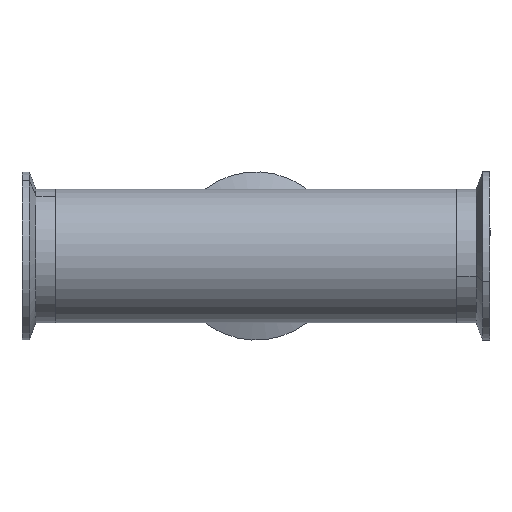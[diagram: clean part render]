
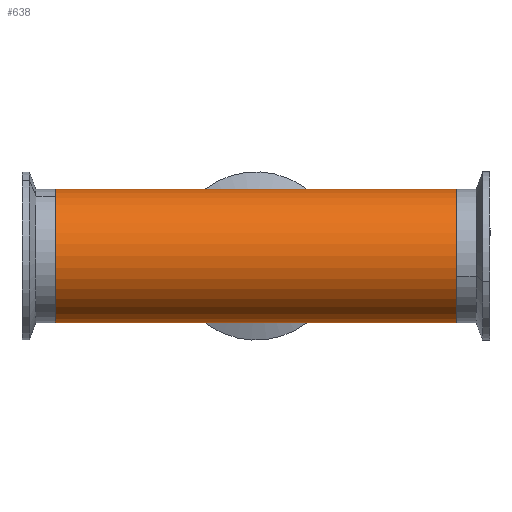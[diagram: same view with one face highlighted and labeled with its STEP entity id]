
A CAD part, front view. The second image highlights one B-rep face of the part: STEP entity #638.
In plain terms, the highlighted cylindrical face has radius 25.4 mm (diameter 50.8 mm), a partial arc.
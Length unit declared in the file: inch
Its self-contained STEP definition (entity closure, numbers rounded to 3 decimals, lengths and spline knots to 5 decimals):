
#13 = CARTESIAN_POINT ( 'NONE',  ( 3., 0., -1. ) ) ;
#64 = VECTOR ( 'NONE', #740, 39.37008 ) ;
#69 = AXIS2_PLACEMENT_3D ( 'NONE', #977, #240, #337 ) ;
#90 = LINE ( 'NONE', #13, #64 ) ;
#103 = VERTEX_POINT ( 'NONE', #167 ) ;
#111 = VERTEX_POINT ( 'NONE', #345 ) ;
#159 = VERTEX_POINT ( 'NONE', #244 ) ;
#161 = AXIS2_PLACEMENT_3D ( 'NONE', #1116, #515, #1208 ) ;
#166 = AXIS2_PLACEMENT_3D ( 'NONE', #183, #931, #295 ) ;
#167 = CARTESIAN_POINT ( 'NONE',  ( 0., 0., -1. ) ) ;
#174 = FACE_OUTER_BOUND ( 'NONE', #508, .T. ) ;
#183 = CARTESIAN_POINT ( 'NONE',  ( -3., 0., 0. ) ) ;
#229 = CARTESIAN_POINT ( 'NONE',  ( 3., 0., 1. ) ) ;
#230 = LINE ( 'NONE', #342, #494 ) ;
#240 = DIRECTION ( 'NONE',  ( -1., 0., 0. ) ) ;
#244 = CARTESIAN_POINT ( 'NONE',  ( -3., 0., 1. ) ) ;
#247 = VECTOR ( 'NONE', #1155, 39.37008 ) ;
#295 = DIRECTION ( 'NONE',  ( 0., 0., -1. ) ) ;
#325 = ORIENTED_EDGE ( 'NONE', *, *, #530, .F. ) ;
#329 = ORIENTED_EDGE ( 'NONE', *, *, #734, .F. ) ;
#337 = DIRECTION ( 'NONE',  ( 0., 0., 1. ) ) ;
#342 = CARTESIAN_POINT ( 'NONE',  ( 3., 0., 1. ) ) ;
#345 = CARTESIAN_POINT ( 'NONE',  ( 3., 0., -1. ) ) ;
#371 = VECTOR ( 'NONE', #1216, 39.37008 ) ;
#430 = CYLINDRICAL_SURFACE ( 'NONE', #69, 1. ) ;
#494 = VECTOR ( 'NONE', #1254, 39.37008 ) ;
#508 = EDGE_LOOP ( 'NONE', ( #329, #325, #816, #1028, #620, #1139 ) ) ;
#515 = DIRECTION ( 'NONE',  ( 1., 0., 0. ) ) ;
#524 = EDGE_CURVE ( 'NONE', #159, #1018, #1086, .T. ) ;
#526 = CARTESIAN_POINT ( 'NONE',  ( 3., 0., -1. ) ) ;
#530 = EDGE_CURVE ( 'NONE', #1191, #111, #833, .T. ) ;
#533 = LINE ( 'NONE', #229, #247 ) ;
#580 = EDGE_CURVE ( 'NONE', #667, #159, #533, .T. ) ;
#620 = ORIENTED_EDGE ( 'NONE', *, *, #524, .T. ) ;
#638 = ADVANCED_FACE ( 'NONE', ( #174 ), #430, .T. ) ;
#667 = VERTEX_POINT ( 'NONE', #669 ) ;
#669 = CARTESIAN_POINT ( 'NONE',  ( 0., 0., 1. ) ) ;
#707 = EDGE_CURVE ( 'NONE', #103, #1018, #1184, .T. ) ;
#734 = EDGE_CURVE ( 'NONE', #111, #103, #90, .T. ) ;
#740 = DIRECTION ( 'NONE',  ( -1., 0., 0. ) ) ;
#802 = EDGE_CURVE ( 'NONE', #1191, #667, #230, .T. ) ;
#816 = ORIENTED_EDGE ( 'NONE', *, *, #802, .T. ) ;
#833 = CIRCLE ( 'NONE', #161, 1. ) ;
#847 = CARTESIAN_POINT ( 'NONE',  ( 3., 0., 1. ) ) ;
#895 = CARTESIAN_POINT ( 'NONE',  ( -3., 0., -1. ) ) ;
#931 = DIRECTION ( 'NONE',  ( 1., 0., 0. ) ) ;
#977 = CARTESIAN_POINT ( 'NONE',  ( 3., 0., 0. ) ) ;
#1018 = VERTEX_POINT ( 'NONE', #895 ) ;
#1028 = ORIENTED_EDGE ( 'NONE', *, *, #580, .T. ) ;
#1086 = CIRCLE ( 'NONE', #166, 1. ) ;
#1116 = CARTESIAN_POINT ( 'NONE',  ( 3., 0., 0. ) ) ;
#1139 = ORIENTED_EDGE ( 'NONE', *, *, #707, .F. ) ;
#1155 = DIRECTION ( 'NONE',  ( -1., 0., 0. ) ) ;
#1184 = LINE ( 'NONE', #526, #371 ) ;
#1191 = VERTEX_POINT ( 'NONE', #847 ) ;
#1208 = DIRECTION ( 'NONE',  ( 0., 0., -1. ) ) ;
#1216 = DIRECTION ( 'NONE',  ( -1., 0., 0. ) ) ;
#1254 = DIRECTION ( 'NONE',  ( -1., 0., 0. ) ) ;
